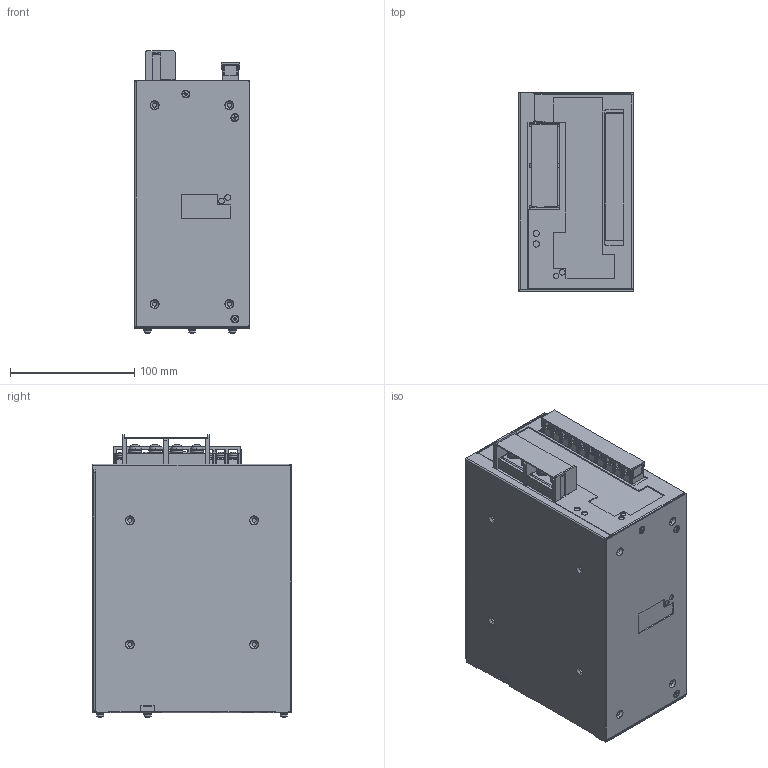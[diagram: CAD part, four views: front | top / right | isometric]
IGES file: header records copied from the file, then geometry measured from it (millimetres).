
Start section: SolidWorks IGES file using analytic representation for surfaces
Global section: file name: C:\JWS480P_OUTLINE.IGS; native system: SolidWorks 2006 by SolidWorks Corporation; preprocessor: SolidWorks 2006 by SolidWorks Corporation; author: 3444matsunaga; date: 061011.142700; units: millimetre
Bounding box: 92 x 160 x 227.45 mm (x, y, z)
Surface area: 158395.4 mm2 (no closed solid volume)
Topology: 0 solids, 0 shells, 2003 faces, 20550 edges, 20513 vertices
Faces by surface type: bspline 1337, revolution 666
